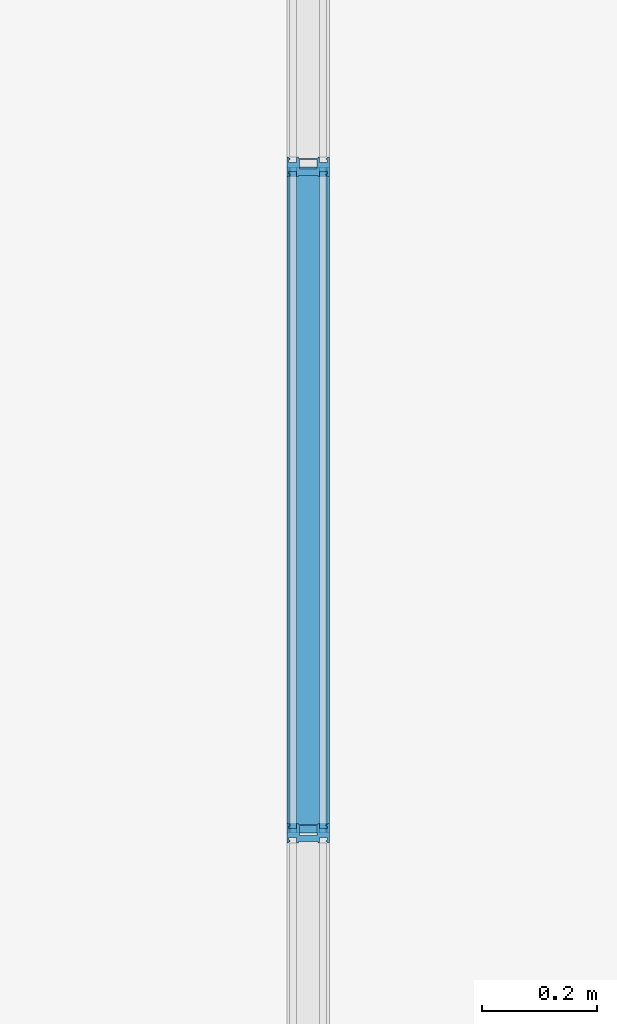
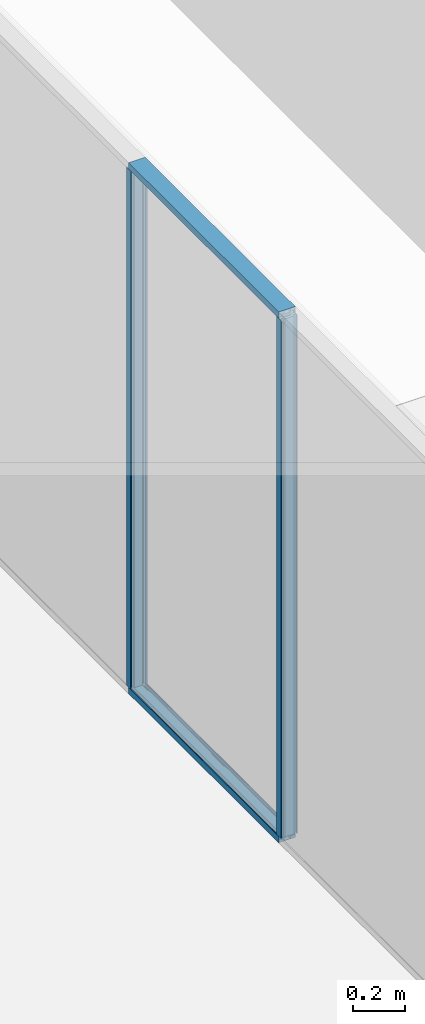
# One storey, part 9 of 79: 4 members, 1 element without a shape of its own.
"""IFC2X3 building model written with IfcOpenShell, lengths in millimetres."""

from ifc_helpers import new_model, entity, si_unit, converted_unit, derived_unit, money_unit, direction, frame, origin_with_axes, place, context, subcontext, project, spatial, faceted_brep, source, transform, mapped, material, material_list, type_object, element, aggregate, save


model = new_model("IFC2X3")

# Units and contexts
model_context = context("Model", 3, precision=0.01, world=origin_with_axes(), true_north=direction((0.0, 1.0)))
body_context = subcontext(model_context, "Body", "Model", "MODEL_VIEW")
ifc_project = project(units=[si_unit("LENGTHUNIT", "METRE", prefix="MILLI"), si_unit("AREAUNIT", "SQUARE_METRE"), si_unit("VOLUMEUNIT", "CUBIC_METRE"), converted_unit("PLANEANGLEUNIT", "DEGREE", entity("IfcPlaneAngleMeasure", 0.0174532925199), si_unit("PLANEANGLEUNIT", "RADIAN"), dimensions=[0, 0, 0, 0, 0, 0, 0]), si_unit("SOLIDANGLEUNIT", "STERADIAN"), money_unit("EUR"), converted_unit("TIMEUNIT", "Year", entity("IfcTimeMeasure", 31556926.0), si_unit("TIMEUNIT", "SECOND"), dimensions=[0, 0, 1, 0, 0, 0, 0]), si_unit("MASSUNIT", "GRAM", prefix="KILO"), si_unit("THERMODYNAMICTEMPERATUREUNIT", "DEGREE_CELSIUS"), si_unit("LUMINOUSINTENSITYUNIT", "LUMEN"), si_unit("ENERGYUNIT", "JOULE", prefix="MEGA"), derived_unit("THERMALCONDUCTANCEUNIT", [(si_unit("POWERUNIT", "WATT"), 1), (si_unit("LENGTHUNIT", "METRE"), -1), (si_unit("THERMODYNAMICTEMPERATUREUNIT", "KELVIN"), -1)]), derived_unit("SPECIFICHEATCAPACITYUNIT", [(si_unit("ENERGYUNIT", "JOULE"), 1), (si_unit("MASSUNIT", "GRAM", prefix="KILO"), -1), (si_unit("THERMODYNAMICTEMPERATUREUNIT", "KELVIN"), -1)]), derived_unit("MASSDENSITYUNIT", [(si_unit("MASSUNIT", "GRAM", prefix="KILO"), 1), (si_unit("VOLUMEUNIT", "CUBIC_METRE"), -1)])], contexts=[model_context])

# Site, building, storey
site_placement = place(None, origin_with_axes())
site = spatial("IfcSite", under=ifc_project, at=site_placement, Name="L.Koidula tn 11b", CompositionType="ELEMENT")
building_placement = place(site_placement, origin_with_axes())
building = spatial("IfcBuilding", under=site, at=building_placement, Name="Rakvere Riigigümnaasium", CompositionType="ELEMENT")
storey_placement = place(building_placement, frame((0.0, 0.0, 3720.0), z_axis=(0.0, 0.0, 1.0), x_axis=(1.0, 0.0, 0.0)))
storey = spatial("IfcBuildingStorey", under=building, at=storey_placement, Name="2.korrus +3,72", CompositionType="ELEMENT", Elevation=3720.0)

# Curtain wall, members
curtain_wall_type = type_object("IfcCurtainWallType", Name="Curtain Wall Type", PredefinedType="NOTDEFINED")
curtain_wall_placement = place(storey_placement, frame((44568.0000786, 20404.7190306, -3.55964617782e-05), z_axis=(0.0, 0.0, 1.0), x_axis=(1.0, 0.0, 0.0)))
curtain_wall = element("IfcCurtainWall", 1, at=curtain_wall_placement, inside=storey, type_object=curtain_wall_type, Name="SKLF-17")
ifc_material_1 = material(Name="Klaasvill")
ifc_material_2 = material(Name="Teras RAL7012")
ifc_material_list = material_list([ifc_material_1, ifc_material_2])
member_type_1 = type_object("IfcMemberType", Name="Boundary Frame 30 x 42", PredefinedType="MULLION")
shared_shape_1 = source(origin_with_axes(), body_context, "Body", "Brep", [
    faceted_brep([(-7.49999990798, 15.000000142, 0.0), (-7.49999990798, 15.000000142, 1156.0), (-13.8499999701, 15.000000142, 1156.0), (-13.8499999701, 15.000000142, 0.0), (-7.49999990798, 29.0161444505, 0.0), (-7.49999990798, 29.0161444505, 1156.0), (-13.8499999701, 29.0161444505, 1156.0), (-13.8499999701, 29.0161444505, 0.0)], [[[0, 1, 2, 3]], [[4, 5, 1, 0]], [[1, 5, 6, 2]], [[3, 2, 6, 7]], [[0, 3, 7, 4]], [[7, 6, 5, 4]]]),
    faceted_brep([(-24.987414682, 29.0161444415, 0.0), (-24.987414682, 29.0161444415, 1156.0), (-25.004489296, 27.0307503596, 1156.0), (-25.004489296, 27.0307503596, 0.0), (-28.5126239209, 29.0161444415, 0.0), (-28.5126239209, 29.0161444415, 1156.0), (-28.7655837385, 28.0385325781, 1156.0), (-28.4955493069, 27.0307503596, 1156.0), (-27.75780152, 26.2930025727, 1156.0), (-26.7500193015, 26.0229681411, 1156.0), (-25.742237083, 26.2930025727, 1156.0), (-25.742237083, 26.2930025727, 0.0), (-26.7500193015, 26.0229681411, 0.0), (-27.75780152, 26.2930025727, 0.0), (-28.4955493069, 27.0307503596, 0.0), (-28.7655837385, 28.0385325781, 0.0)], [[[0, 1, 2, 3]], [[4, 5, 1, 0]], [[1, 5, 6, 7, 8, 9, 10, 2]], [[3, 2, 10, 11]], [[0, 3, 11, 12, 13, 14, 15, 4]], [[15, 6, 5, 4]], [[14, 7, 6, 15]], [[13, 8, 7, 14]], [[12, 9, 8, 13]], [[11, 10, 9, 12]]]),
    faceted_brep([(-7.49999990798, -24.9999997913, 0.0), (-7.49999990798, -24.9999997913, 1156.0), (-7.49999990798, -39.0161445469, 1156.0), (-7.49999990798, -39.0161445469, 0.0), (-13.8499999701, -24.9999997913, 0.0), (-13.8499999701, -24.9999997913, 1156.0), (-13.8499999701, -39.0161445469, 1156.0), (-13.8499999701, -39.0161445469, 0.0)], [[[0, 1, 2, 3]], [[4, 5, 1, 0]], [[1, 5, 6, 2]], [[3, 2, 6, 7]], [[0, 3, 7, 4]], [[7, 6, 5, 4]]]),
    faceted_brep([(-25.004489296, -37.0307503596, 0.0), (-25.004489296, -37.0307503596, 1156.0), (-24.987414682, -39.0161444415, 1156.0), (-24.987414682, -39.0161444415, 0.0), (-25.742237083, -36.2930025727, 0.0), (-25.742237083, -36.2930025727, 1156.0), (-26.7500193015, -36.0229681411, 1156.0), (-27.75780152, -36.2930025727, 1156.0), (-28.4955493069, -37.0307503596, 1156.0), (-28.7655837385, -38.0385325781, 1156.0), (-28.5126239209, -39.0161444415, 1156.0), (-28.5126239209, -39.0161444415, 0.0), (-28.7655837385, -38.0385325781, 0.0), (-28.4955493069, -37.0307503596, 0.0), (-27.75780152, -36.2930025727, 0.0), (-26.7500193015, -36.0229681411, 0.0)], [[[0, 1, 2, 3]], [[4, 5, 1, 0]], [[1, 5, 6, 7, 8, 9, 10, 2]], [[3, 2, 10, 11]], [[0, 3, 11, 12, 13, 14, 15, 4]], [[15, 6, 5, 4]], [[14, 7, 6, 15]], [[13, 8, 7, 14]], [[12, 9, 8, 13]], [[11, 10, 9, 12]]]),
    faceted_brep([(0.0, -22.0000000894, 0.0), (0.0, -22.0000000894, 1156.0), (-29.5999996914, -22.0000000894, 1156.0), (-29.5999996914, -22.0000000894, 0.0), (0.0, 12.0000000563, 0.0), (0.0, 12.0000000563, 1156.0), (-29.5999996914, 12.0000000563, 1156.0), (-1.9999999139, 10.0000001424, 1156.0), (-1.9999999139, -20.0000001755, 1156.0), (-18.7999996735, -20.0000001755, 1156.0), (-18.7999996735, 10.0000001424, 1156.0), (-29.5999996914, 12.0000000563, 0.0), (-1.9999999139, 10.0000001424, 0.0), (-18.7999996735, 10.0000001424, 0.0), (-18.7999996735, -20.0000001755, 0.0), (-1.9999999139, -20.0000001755, 0.0)], [[[0, 1, 2, 3]], [[4, 5, 1, 0]], [[1, 5, 6, 2], [7, 8, 9, 10]], [[3, 2, 6, 11]], [[0, 3, 11, 4], [12, 13, 14, 15]], [[11, 6, 5, 4]], [[15, 8, 7, 12]], [[14, 9, 8, 15]], [[13, 10, 9, 14]], [[12, 7, 10, 13]]]),
    faceted_brep([(0.0, 12.0, 0.0), (0.0, 12.0, 1156.0), (-29.5999996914, 12.0000000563, 1156.0), (-29.5999996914, 12.0000000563, 0.0), (0.0, 32.0, 0.0), (0.0, 32.0, 1156.0), (-30.0000193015, 32.0, 1156.0), (-30.0000193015, 29.0161444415, 1156.0), (-28.5126239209, 29.0161444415, 1156.0), (-24.987414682, 29.0161444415, 1156.0), (-13.8499999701, 29.0161444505, 1156.0), (-7.49999999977, 29.0161444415, 1156.0), (-7.49999999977, 15.0, 1156.0), (-13.8499999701, 15.000000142, 1156.0), (-30.0000193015, 15.0, 1156.0), (-30.0000193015, 12.0, 1156.0), (-30.0000193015, 12.0, 0.0), (-30.0000193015, 15.0, 0.0), (-13.8499999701, 15.000000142, 0.0), (-7.49999999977, 15.0, 0.0), (-7.49999999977, 29.0161444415, 0.0), (-13.8499999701, 29.0161444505, 0.0), (-24.987414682, 29.0161444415, 0.0), (-28.5126239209, 29.0161444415, 0.0), (-30.0000193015, 29.0161444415, 0.0), (-30.0000193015, 32.0, 0.0)], [[[0, 1, 2, 3]], [[4, 5, 1, 0]], [[1, 5, 6, 7, 8, 9, 10, 11, 12, 13, 14, 15, 2]], [[3, 2, 15, 16]], [[0, 3, 16, 17, 18, 19, 20, 21, 22, 23, 24, 25, 4]], [[25, 6, 5, 4]], [[24, 7, 6, 25]], [[23, 8, 7, 24]], [[22, 9, 8, 23]], [[21, 10, 9, 22]], [[20, 11, 10, 21]], [[19, 12, 11, 20]], [[18, 13, 12, 19]], [[17, 14, 13, 18]], [[16, 15, 14, 17]]]),
    faceted_brep([(0.0, -22.0, 0.0), (0.0, -22.0, 1156.0), (0.0, -42.0, 1156.0), (0.0, -42.0, 0.0), (-29.5999996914, -22.0000000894, 0.0), (-29.5999996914, -22.0000000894, 1156.0), (-30.0000193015, -22.0, 1156.0), (-30.0000193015, -25.0, 1156.0), (-13.8499999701, -24.9999997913, 1156.0), (-7.49999999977, -25.0, 1156.0), (-7.49999999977, -39.0161444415, 1156.0), (-13.8499999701, -39.0161445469, 1156.0), (-24.987414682, -39.0161444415, 1156.0), (-28.5126239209, -39.0161444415, 1156.0), (-30.0000193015, -39.0161444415, 1156.0), (-30.0000193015, -42.0, 1156.0), (-30.0000193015, -42.0, 0.0), (-30.0000193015, -39.0161444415, 0.0), (-28.5126239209, -39.0161444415, 0.0), (-24.987414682, -39.0161444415, 0.0), (-13.8499999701, -39.0161445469, 0.0), (-7.49999999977, -39.0161444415, 0.0), (-7.49999999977, -25.0, 0.0), (-13.8499999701, -24.9999997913, 0.0), (-30.0000193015, -25.0, 0.0), (-30.0000193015, -22.0, 0.0)], [[[0, 1, 2, 3]], [[4, 5, 1, 0]], [[1, 5, 6, 7, 8, 9, 10, 11, 12, 13, 14, 15, 2]], [[3, 2, 15, 16]], [[0, 3, 16, 17, 18, 19, 20, 21, 22, 23, 24, 25, 4]], [[25, 6, 5, 4]], [[24, 7, 6, 25]], [[23, 8, 7, 24]], [[22, 9, 8, 23]], [[21, 10, 9, 22]], [[20, 11, 10, 21]], [[19, 12, 11, 20]], [[18, 13, 12, 19]], [[17, 14, 13, 18]], [[16, 15, 14, 17]]]),
])
member_1_placement = place(curtain_wall_placement, frame((0.0, 5202.5, 2493.0000356), z_axis=(0.0, 1.0, 0.0), x_axis=(0.0, 0.0, 1.0)))
member_1 = element("IfcMember", 2, at=member_1_placement, type_object=member_type_1, material=ifc_material_list, Name="SKLF-76-raam", ObjectType="MULLION", context=body_context, shape_type="MappedRepresentation", body=[
    mapped(shared_shape_1, transform((0.0, 0.0, 0.0))),
])
shared_shape_2 = source(origin_with_axes(), body_context, "Body", "Brep", [
    faceted_brep([(7.49999990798, 15.000000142, 0.0), (13.8499999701, 15.000000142, 0.0), (13.8499999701, 15.000000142, 1156.0), (7.49999990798, 15.000000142, 1156.0), (7.49999990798, 29.0161444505, 0.0), (13.8499999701, 29.0161444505, 0.0), (13.8499999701, 29.0161444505, 1156.0), (7.49999990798, 29.0161444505, 1156.0)], [[[0, 1, 2, 3]], [[0, 4, 5, 1]], [[1, 5, 6, 2]], [[3, 2, 6, 7]], [[4, 0, 3, 7]], [[5, 4, 7, 6]]]),
    faceted_brep([(24.987414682, 29.0161444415, 0.0), (25.004489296, 27.0307503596, 0.0), (25.004489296, 27.0307503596, 1156.0), (24.987414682, 29.0161444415, 1156.0), (28.5126239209, 29.0161444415, 0.0), (28.7655837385, 28.0385325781, 0.0), (28.4955493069, 27.0307503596, 0.0), (27.75780152, 26.2930025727, 0.0), (26.7500193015, 26.0229681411, 0.0), (25.742237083, 26.2930025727, 0.0), (25.742237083, 26.2930025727, 1156.0), (26.7500193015, 26.0229681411, 1156.0), (27.75780152, 26.2930025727, 1156.0), (28.4955493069, 27.0307503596, 1156.0), (28.7655837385, 28.0385325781, 1156.0), (28.5126239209, 29.0161444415, 1156.0)], [[[0, 1, 2, 3]], [[0, 4, 5, 6, 7, 8, 9, 1]], [[1, 9, 10, 2]], [[3, 2, 10, 11, 12, 13, 14, 15]], [[4, 0, 3, 15]], [[5, 4, 15, 14]], [[6, 5, 14, 13]], [[7, 6, 13, 12]], [[8, 7, 12, 11]], [[9, 8, 11, 10]]]),
    faceted_brep([(7.49999990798, -24.9999997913, 0.0), (7.49999990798, -39.0161445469, 0.0), (7.49999990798, -39.0161445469, 1156.0), (7.49999990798, -24.9999997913, 1156.0), (13.8499999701, -24.9999997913, 0.0), (13.8499999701, -39.0161445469, 0.0), (13.8499999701, -39.0161445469, 1156.0), (13.8499999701, -24.9999997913, 1156.0)], [[[0, 1, 2, 3]], [[0, 4, 5, 1]], [[1, 5, 6, 2]], [[3, 2, 6, 7]], [[4, 0, 3, 7]], [[5, 4, 7, 6]]]),
    faceted_brep([(25.004489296, -37.0307503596, 0.0), (24.987414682, -39.0161444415, 0.0), (24.987414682, -39.0161444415, 1156.0), (25.004489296, -37.0307503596, 1156.0), (25.742237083, -36.2930025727, 0.0), (26.7500193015, -36.0229681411, 0.0), (27.75780152, -36.2930025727, 0.0), (28.4955493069, -37.0307503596, 0.0), (28.7655837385, -38.0385325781, 0.0), (28.5126239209, -39.0161444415, 0.0), (28.5126239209, -39.0161444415, 1156.0), (28.7655837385, -38.0385325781, 1156.0), (28.4955493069, -37.0307503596, 1156.0), (27.75780152, -36.2930025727, 1156.0), (26.7500193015, -36.0229681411, 1156.0), (25.742237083, -36.2930025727, 1156.0)], [[[0, 1, 2, 3]], [[0, 4, 5, 6, 7, 8, 9, 1]], [[1, 9, 10, 2]], [[3, 2, 10, 11, 12, 13, 14, 15]], [[4, 0, 3, 15]], [[5, 4, 15, 14]], [[6, 5, 14, 13]], [[7, 6, 13, 12]], [[8, 7, 12, 11]], [[9, 8, 11, 10]]]),
    faceted_brep([(0.0, -22.0000000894, 0.0), (29.5999996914, -22.0000000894, 0.0), (29.5999996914, -22.0000000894, 1156.0), (0.0, -22.0000000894, 1156.0), (0.0, 12.0000000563, 0.0), (29.5999996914, 12.0000000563, 0.0), (1.9999999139, 10.0000001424, 0.0), (1.9999999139, -20.0000001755, 0.0), (18.7999996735, -20.0000001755, 0.0), (18.7999996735, 10.0000001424, 0.0), (29.5999996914, 12.0000000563, 1156.0), (0.0, 12.0000000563, 1156.0), (1.9999999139, 10.0000001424, 1156.0), (18.7999996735, 10.0000001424, 1156.0), (18.7999996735, -20.0000001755, 1156.0), (1.9999999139, -20.0000001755, 1156.0)], [[[0, 1, 2, 3]], [[0, 4, 5, 1], [6, 7, 8, 9]], [[1, 5, 10, 2]], [[3, 2, 10, 11], [12, 13, 14, 15]], [[4, 0, 3, 11]], [[5, 4, 11, 10]], [[7, 6, 12, 15]], [[8, 7, 15, 14]], [[9, 8, 14, 13]], [[6, 9, 13, 12]]]),
    faceted_brep([(0.0, 12.0, 0.0), (29.5999996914, 12.0000000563, 0.0), (29.5999996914, 12.0000000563, 1156.0), (0.0, 12.0, 1156.0), (0.0, 32.0, 0.0), (30.0000193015, 32.0, 0.0), (30.0000193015, 29.0161444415, 0.0), (28.5126239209, 29.0161444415, 0.0), (24.987414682, 29.0161444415, 0.0), (13.8499999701, 29.0161444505, 0.0), (7.49999999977, 29.0161444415, 0.0), (7.49999999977, 15.0, 0.0), (13.8499999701, 15.000000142, 0.0), (30.0000193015, 15.0, 0.0), (30.0000193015, 12.0, 0.0), (30.0000193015, 12.0, 1156.0), (30.0000193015, 15.0, 1156.0), (13.8499999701, 15.000000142, 1156.0), (7.49999999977, 15.0, 1156.0), (7.49999999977, 29.0161444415, 1156.0), (13.8499999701, 29.0161444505, 1156.0), (24.987414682, 29.0161444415, 1156.0), (28.5126239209, 29.0161444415, 1156.0), (30.0000193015, 29.0161444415, 1156.0), (30.0000193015, 32.0, 1156.0), (0.0, 32.0, 1156.0)], [[[0, 1, 2, 3]], [[0, 4, 5, 6, 7, 8, 9, 10, 11, 12, 13, 14, 1]], [[1, 14, 15, 2]], [[3, 2, 15, 16, 17, 18, 19, 20, 21, 22, 23, 24, 25]], [[4, 0, 3, 25]], [[5, 4, 25, 24]], [[6, 5, 24, 23]], [[7, 6, 23, 22]], [[8, 7, 22, 21]], [[9, 8, 21, 20]], [[10, 9, 20, 19]], [[11, 10, 19, 18]], [[12, 11, 18, 17]], [[13, 12, 17, 16]], [[14, 13, 16, 15]]]),
    faceted_brep([(0.0, -22.0, 0.0), (0.0, -42.0, 0.0), (0.0, -42.0, 1156.0), (0.0, -22.0, 1156.0), (29.5999996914, -22.0000000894, 0.0), (30.0000193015, -22.0, 0.0), (30.0000193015, -25.0, 0.0), (13.8499999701, -24.9999997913, 0.0), (7.49999999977, -25.0, 0.0), (7.49999999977, -39.0161444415, 0.0), (13.8499999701, -39.0161445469, 0.0), (24.987414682, -39.0161444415, 0.0), (28.5126239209, -39.0161444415, 0.0), (30.0000193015, -39.0161444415, 0.0), (30.0000193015, -42.0, 0.0), (30.0000193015, -42.0, 1156.0), (30.0000193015, -39.0161444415, 1156.0), (28.5126239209, -39.0161444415, 1156.0), (24.987414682, -39.0161444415, 1156.0), (13.8499999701, -39.0161445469, 1156.0), (7.49999999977, -39.0161444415, 1156.0), (7.49999999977, -25.0, 1156.0), (13.8499999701, -24.9999997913, 1156.0), (30.0000193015, -25.0, 1156.0), (30.0000193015, -22.0, 1156.0), (29.5999996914, -22.0000000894, 1156.0)], [[[0, 1, 2, 3]], [[0, 4, 5, 6, 7, 8, 9, 10, 11, 12, 13, 14, 1]], [[1, 14, 15, 2]], [[3, 2, 15, 16, 17, 18, 19, 20, 21, 22, 23, 24, 25]], [[4, 0, 3, 25]], [[5, 4, 25, 24]], [[6, 5, 24, 23]], [[7, 6, 23, 22]], [[8, 7, 22, 21]], [[9, 8, 21, 20]], [[10, 9, 20, 19]], [[11, 10, 19, 18]], [[12, 11, 18, 17]], [[13, 12, 17, 16]], [[14, 13, 16, 15]]]),
])
member_2_placement = place(curtain_wall_placement, frame((0.0, 5202.5, 0.0), z_axis=(0.0, 1.0, 0.0), x_axis=(0.0, 0.0, 1.0)))
member_2 = element("IfcMember", 3, at=member_2_placement, type_object=member_type_1, material=ifc_material_list, Name="SKLF-72-raam", ObjectType="MULLION", context=body_context, shape_type="MappedRepresentation", body=[
    mapped(shared_shape_2, transform((0.0, 0.0, 0.0))),
])
member_type_2 = type_object("IfcMemberType", Name="Siseklaasfassaad-Vaheprofiil-Doubleline30 34 x 42", PredefinedType="MULLION")
shared_shape_3 = source(origin_with_axes(), body_context, "Body", "Brep", [
    faceted_brep([(12.004489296, 27.0307503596, 30.0000193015), (12.004489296, 27.0307503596, 2463.00001629), (11.987414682, 29.0161444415, 2463.00001629), (11.987414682, 29.0161444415, 30.0000193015), (12.742237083, 26.2930025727, 30.0000193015), (12.742237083, 26.2930025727, 2463.00001629), (13.7500193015, 26.0229681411, 2463.00001629), (14.75780152, 26.2930025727, 2463.00001629), (15.4955493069, 27.0307503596, 2463.00001629), (15.7655837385, 28.0385325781, 2463.00001629), (15.5126239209, 29.0161444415, 2463.00001629), (15.5126239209, 29.0161444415, 30.0000193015), (15.7655837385, 28.0385325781, 30.0000193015), (15.4955493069, 27.0307503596, 30.0000193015), (14.75780152, 26.2930025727, 30.0000193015), (13.7500193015, 26.0229681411, 30.0000193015)], [[[0, 1, 2, 3]], [[4, 5, 1, 0]], [[2, 1, 5, 6, 7, 8, 9, 10]], [[3, 2, 10, 11]], [[3, 11, 12, 13, 14, 15, 4, 0]], [[15, 6, 5, 4]], [[14, 7, 6, 15]], [[13, 8, 7, 14]], [[12, 9, 8, 13]], [[11, 10, 9, 12]]]),
    faceted_brep([(15.4955493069, -37.0307503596, 30.0000193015), (15.4955493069, -37.0307503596, 2463.00001629), (15.5126239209, -39.0161444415, 2463.00001629), (15.5126239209, -39.0161444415, 30.0000193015), (14.75780152, -36.2930025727, 30.0000193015), (14.75780152, -36.2930025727, 2463.00001629), (13.7500193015, -36.0229681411, 2463.00001629), (12.742237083, -36.2930025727, 2463.00001629), (12.004489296, -37.0307503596, 2463.00001629), (11.7344548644, -38.0385325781, 2463.00001629), (11.987414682, -39.0161444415, 2463.00001629), (11.987414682, -39.0161444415, 30.0000193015), (11.7344548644, -38.0385325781, 30.0000193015), (12.004489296, -37.0307503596, 30.0000193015), (12.742237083, -36.2930025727, 30.0000193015), (13.7500193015, -36.0229681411, 30.0000193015)], [[[0, 1, 2, 3]], [[4, 5, 1, 0]], [[2, 1, 5, 6, 7, 8, 9, 10]], [[3, 2, 10, 11]], [[3, 11, 12, 13, 14, 15, 4, 0]], [[15, 6, 5, 4]], [[14, 7, 6, 15]], [[13, 8, 7, 14]], [[12, 9, 8, 13]], [[11, 10, 9, 12]]]),
    faceted_brep([(-15.7655837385, 28.0385325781, 30.0000193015), (-15.7655837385, 28.0385325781, 2463.00001629), (-11.987414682, 29.0161444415, 2463.00001629), (-11.987414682, 29.0161444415, 30.0000193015), (-15.4955493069, 27.0307503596, 30.0000193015), (-15.4955493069, 27.0307503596, 2463.00001629), (-14.75780152, 26.2930025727, 2463.00001629), (-13.7500193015, 26.0229681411, 2463.00001629), (-12.742237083, 26.2930025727, 2463.00001629), (-12.004489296, 27.0307503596, 2463.00001629), (-11.7344548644, 28.0385325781, 2463.00001629), (-11.7344548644, 28.0385325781, 30.0000193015), (-12.004489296, 27.0307503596, 30.0000193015), (-12.742237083, 26.2930025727, 30.0000193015), (-13.7500193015, 26.0229681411, 30.0000193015), (-14.75780152, 26.2930025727, 30.0000193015)], [[[0, 1, 2, 3]], [[4, 5, 1, 0]], [[2, 1, 5, 6, 7, 8, 9, 10]], [[3, 2, 10, 11]], [[3, 11, 12, 13, 14, 15, 4, 0]], [[15, 6, 5, 4]], [[14, 7, 6, 15]], [[13, 8, 7, 14]], [[12, 9, 8, 13]], [[11, 10, 9, 12]]]),
    faceted_brep([(-15.5126239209, -39.0161444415, 30.0000193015), (-15.5126239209, -39.0161444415, 2463.00001629), (-15.4955493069, -37.0307503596, 2463.00001629), (-15.4955493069, -37.0307503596, 30.0000193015), (-11.987414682, -39.0161444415, 30.0000193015), (-11.987414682, -39.0161444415, 2463.00001629), (-11.7344548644, -38.0385325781, 2463.00001629), (-12.004489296, -37.0307503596, 2463.00001629), (-12.742237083, -36.2930025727, 2463.00001629), (-13.7500193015, -36.0229681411, 2463.00001629), (-14.75780152, -36.2930025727, 2463.00001629), (-14.75780152, -36.2930025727, 30.0000193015), (-13.7500193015, -36.0229681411, 30.0000193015), (-12.742237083, -36.2930025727, 30.0000193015), (-12.004489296, -37.0307503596, 30.0000193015), (-11.7344548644, -38.0385325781, 30.0000193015)], [[[0, 1, 2, 3]], [[4, 5, 1, 0]], [[2, 1, 5, 6, 7, 8, 9, 10]], [[3, 2, 10, 11]], [[3, 11, 12, 13, 14, 15, 4, 0]], [[15, 6, 5, 4]], [[14, 7, 6, 15]], [[13, 8, 7, 14]], [[12, 9, 8, 13]], [[11, 10, 9, 12]]]),
    faceted_brep([(-3.08905781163e-07, -22.0000000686, 30.0000193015), (-3.08905781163e-07, -22.0000000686, 2463.00001629), (-14.8000001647, -22.0000000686, 2463.00001629), (-14.8000001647, -22.0000000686, 30.0000193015), (14.8000003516, -22.0000000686, 30.0000193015), (14.8000003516, -22.0000000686, 2463.00001629), (14.8000003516, 12.0000001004, 2463.00001629), (-3.08905781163e-07, 12.0000001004, 2463.00001629), (-14.8000001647, 12.0000001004, 2463.00001629), (-12.8000002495, 10.0000001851, 2463.00001629), (4.0000003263, 10.0000001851, 2463.00001629), (4.0000003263, -20.0000001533, 2463.00001629), (-12.8000002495, -20.0000001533, 2463.00001629), (-14.8000001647, 12.0000001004, 30.0000193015), (-3.08905781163e-07, 12.0000001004, 30.0000193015), (14.8000003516, 12.0000001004, 30.0000193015), (-12.8000002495, 10.0000001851, 30.0000193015), (-12.8000002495, -20.0000001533, 30.0000193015), (4.0000003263, -20.0000001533, 30.0000193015), (4.0000003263, 10.0000001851, 30.0000193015)], [[[0, 1, 2, 3]], [[4, 5, 1, 0]], [[2, 1, 5, 6, 7, 8], [9, 10, 11, 12]], [[3, 2, 8, 13]], [[3, 13, 14, 15, 4, 0], [16, 17, 18, 19]], [[15, 6, 5, 4]], [[14, 7, 6, 15]], [[13, 8, 7, 14]], [[19, 10, 9, 16]], [[18, 11, 10, 19]], [[17, 12, 11, 18]], [[16, 9, 12, 17]]]),
    faceted_brep([(0.0, 12.0, 30.0000193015), (0.0, 12.0, 2463.00001629), (0.0, 32.0000000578, 2463.00001629), (0.0, 32.0000000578, 30.0000193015), (14.8000003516, 12.0000001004, 30.0000193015), (14.8000003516, 12.0000001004, 2463.00001629), (17.0000193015, 12.0, 2463.00001629), (17.0000193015, 15.0000000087, 2463.00001629), (7.50000002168, 15.0000000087, 2463.00001629), (7.50000002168, 29.0161446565, 2463.00001629), (11.987414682, 29.0161444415, 2463.00001629), (15.5126239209, 29.0161444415, 2463.00001629), (17.0000193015, 29.0161446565, 2463.00001629), (17.0000193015, 32.0000000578, 2463.00001629), (17.0000193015, 32.0000000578, 30.0000193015), (17.0000193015, 29.0161446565, 30.0000193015), (15.5126239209, 29.0161444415, 30.0000193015), (11.987414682, 29.0161444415, 30.0000193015), (7.50000002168, 29.0161446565, 30.0000193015), (7.50000002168, 15.0000000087, 30.0000193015), (17.0000193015, 15.0000000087, 30.0000193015), (17.0000193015, 12.0, 30.0000193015)], [[[0, 1, 2, 3]], [[4, 5, 1, 0]], [[2, 1, 5, 6, 7, 8, 9, 10, 11, 12, 13]], [[3, 2, 13, 14]], [[3, 14, 15, 16, 17, 18, 19, 20, 21, 4, 0]], [[21, 6, 5, 4]], [[20, 7, 6, 21]], [[19, 8, 7, 20]], [[18, 9, 8, 19]], [[17, 10, 9, 18]], [[16, 11, 10, 17]], [[15, 12, 11, 16]], [[14, 13, 12, 15]]]),
    faceted_brep([(0.0, -42.0, 30.0000193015), (0.0, -42.0, 2463.00001629), (0.0, -21.9999999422, 2463.00001629), (0.0, -21.9999999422, 30.0000193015), (17.0000193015, -42.0, 30.0000193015), (17.0000193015, -42.0, 2463.00001629), (17.0000193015, -39.0161445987, 2463.00001629), (15.5126239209, -39.0161444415, 2463.00001629), (11.987414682, -39.0161444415, 2463.00001629), (7.50000002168, -39.0161445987, 2463.00001629), (7.50000002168, -24.9999999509, 2463.00001629), (17.0000193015, -24.9999999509, 2463.00001629), (17.0000193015, -21.9999999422, 2463.00001629), (14.8000003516, -22.0000000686, 2463.00001629), (14.8000003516, -22.0000000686, 30.0000193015), (17.0000193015, -21.9999999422, 30.0000193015), (17.0000193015, -24.9999999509, 30.0000193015), (7.50000002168, -24.9999999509, 30.0000193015), (7.50000002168, -39.0161445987, 30.0000193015), (11.987414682, -39.0161444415, 30.0000193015), (15.5126239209, -39.0161444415, 30.0000193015), (17.0000193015, -39.0161445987, 30.0000193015)], [[[0, 1, 2, 3]], [[4, 5, 1, 0]], [[2, 1, 5, 6, 7, 8, 9, 10, 11, 12, 13]], [[3, 2, 13, 14]], [[3, 14, 15, 16, 17, 18, 19, 20, 21, 4, 0]], [[21, 6, 5, 4]], [[20, 7, 6, 21]], [[19, 8, 7, 20]], [[18, 9, 8, 19]], [[17, 10, 9, 18]], [[16, 11, 10, 17]], [[15, 12, 11, 16]], [[14, 13, 12, 15]]]),
    faceted_brep([(0.0, 32.0, 30.0000193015), (0.0, 32.0, 2463.00001629), (0.0, 12.0, 2463.00001629), (0.0, 12.0, 30.0000193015), (-17.0000193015, 32.0, 30.0000193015), (-17.0000193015, 32.0, 2463.00001629), (-17.0000193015, 29.0161444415, 2463.00001629), (-15.5126239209, 29.0161444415, 2463.00001629), (-11.987414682, 29.0161444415, 2463.00001629), (-7.49999999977, 29.0161444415, 2463.00001629), (-7.49999999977, 15.0, 2463.00001629), (-17.0000193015, 15.0, 2463.00001629), (-17.0000193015, 12.0, 2463.00001629), (-14.8000001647, 12.0000001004, 2463.00001629), (-14.8000001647, 12.0000001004, 30.0000193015), (-17.0000193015, 12.0, 30.0000193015), (-17.0000193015, 15.0, 30.0000193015), (-7.49999999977, 15.0, 30.0000193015), (-7.49999999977, 29.0161444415, 30.0000193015), (-11.987414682, 29.0161444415, 30.0000193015), (-15.5126239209, 29.0161444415, 30.0000193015), (-17.0000193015, 29.0161444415, 30.0000193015)], [[[0, 1, 2, 3]], [[4, 5, 1, 0]], [[2, 1, 5, 6, 7, 8, 9, 10, 11, 12, 13]], [[3, 2, 13, 14]], [[3, 14, 15, 16, 17, 18, 19, 20, 21, 4, 0]], [[21, 6, 5, 4]], [[20, 7, 6, 21]], [[19, 8, 7, 20]], [[18, 9, 8, 19]], [[17, 10, 9, 18]], [[16, 11, 10, 17]], [[15, 12, 11, 16]], [[14, 13, 12, 15]]]),
    faceted_brep([(-14.8000001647, -22.0000000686, 30.0000193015), (-14.8000001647, -22.0000000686, 2463.00001629), (0.0, -22.0, 2463.00001629), (0.0, -22.0, 30.0000193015), (-17.0000193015, -22.0, 30.0000193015), (-17.0000193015, -22.0, 2463.00001629), (-17.0000193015, -25.0, 2463.00001629), (-7.49999999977, -25.0, 2463.00001629), (-7.49999999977, -39.0161444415, 2463.00001629), (-11.987414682, -39.0161444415, 2463.00001629), (-15.5126239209, -39.0161444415, 2463.00001629), (-17.0000193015, -39.0161444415, 2463.00001629), (-17.0000193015, -42.0, 2463.00001629), (0.0, -42.0, 2463.00001629), (0.0, -42.0, 30.0000193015), (-17.0000193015, -42.0, 30.0000193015), (-17.0000193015, -39.0161444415, 30.0000193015), (-15.5126239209, -39.0161444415, 30.0000193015), (-11.987414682, -39.0161444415, 30.0000193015), (-7.49999999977, -39.0161444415, 30.0000193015), (-7.49999999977, -25.0, 30.0000193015), (-17.0000193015, -25.0, 30.0000193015)], [[[0, 1, 2, 3]], [[4, 5, 1, 0]], [[2, 1, 5, 6, 7, 8, 9, 10, 11, 12, 13]], [[3, 2, 13, 14]], [[3, 14, 15, 16, 17, 18, 19, 20, 21, 4, 0]], [[21, 6, 5, 4]], [[20, 7, 6, 21]], [[19, 8, 7, 20]], [[18, 9, 8, 19]], [[17, 10, 9, 18]], [[16, 11, 10, 17]], [[15, 12, 11, 16]], [[14, 13, 12, 15]]]),
])
member_3_placement = place(curtain_wall_placement, frame((0.0, 5202.5, 0.0), z_axis=(0.0, 0.0, 1.0), x_axis=(0.0, -1.0, 0.0)))
member_3 = element("IfcMember", 4, at=member_3_placement, type_object=member_type_2, material=ifc_material_list, Name="Frame-Siseklaasf-253", ObjectType="MULLION", context=body_context, shape_type="MappedRepresentation", body=[
    mapped(shared_shape_3, transform((0.0, 0.0, 0.0))),
])
member_4_placement = place(curtain_wall_placement, frame((0.0, 6358.5, 0.0), z_axis=(0.0, 0.0, 1.0), x_axis=(0.0, -1.0, 0.0)))
member_4 = element("IfcMember", 5, at=member_4_placement, type_object=member_type_2, material=ifc_material_list, Name="Frame-Siseklaasf-254", ObjectType="MULLION", context=body_context, shape_type="MappedRepresentation", body=[
    mapped(shared_shape_3, transform((0.0, 0.0, 0.0))),
])
aggregate(curtain_wall, [member_2, member_3, member_4, member_1])

save(model, "model.ifc")
